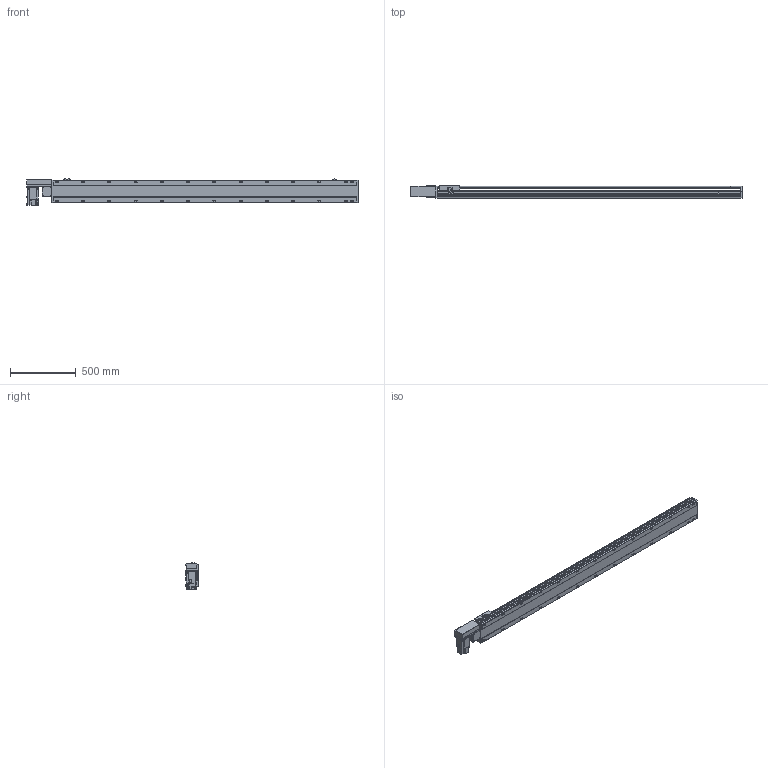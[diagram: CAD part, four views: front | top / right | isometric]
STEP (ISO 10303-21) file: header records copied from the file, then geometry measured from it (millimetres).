
FILE_DESCRIPTION(/* description */ ('STEP AP214'),/* implementation_level */ '2;1');
FILE_NAME(/* name */ 'PBS170-P40-S2050-R-T75-C1-N(0)',/* time_stamp */ '2022-06-07T09:31:37+02:00',/* author */ ('License CC BY-ND 4.0'),/* organization */ ('CADENAS'),/* preprocessor_version */ 'ST-DEVELOPER v18.102',/* originating_system */ 'PARTsolutions',/* authorisation */ ' ');
FILE_SCHEMA (('AUTOMOTIVE_DESIGN {1 0 10303 214 3 1 1}'));
Length unit declared in the file: millimetre
Products named in the file (7): PBS170-P40-S2050-R-T75-C1-N(0); PBS170_sensor; PBS170_plant; PBS170_sliser; T75-p1; PBS170T-R_motors; PBS170-S2050()_body
Assembly tree (8 placements, depth 2):
  PBS170-P40-S2050-R-T75-C1-N(0)
    PBS170_sensor  x3
    PBS170_plant
    PBS170_sliser
    T75-p1
    PBS170T-R_motors
    PBS170-S2050()_body
Bounding box: 2528 x 97 x 205.3 mm (x, y, z)
Volume: 18469246.3 mm3; surface area: 2343893.3 mm2
Topology: 8 solids, 8 shells, 1162 faces, 3075 edges, 2004 vertices
Faces by surface type: plane 717, cylinder 379, cone 56, sphere 8, torus 2
Full cylindrical faces by diameter (mm): 3.242 x4, 4 x2, 4.4 x4, 4.5 x6, 4.917 x4, 6 x9, 6.647 x34, 7 x2, 7.5 x4, 8 x8, 8.5 x26, 10 x4, 10.5 x26, 11 x2, 30 x2, 40 x1, 70 x1
Entity records: 33408 total; most frequent: CARTESIAN_POINT 6273, DIRECTION 5650, ORIENTED_EDGE 5328, EDGE_CURVE 2664, AXIS2_PLACEMENT_3D 1987, VERTEX_POINT 1850, LINE 1676, VECTOR 1676
